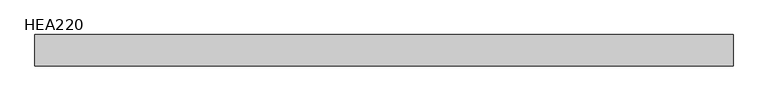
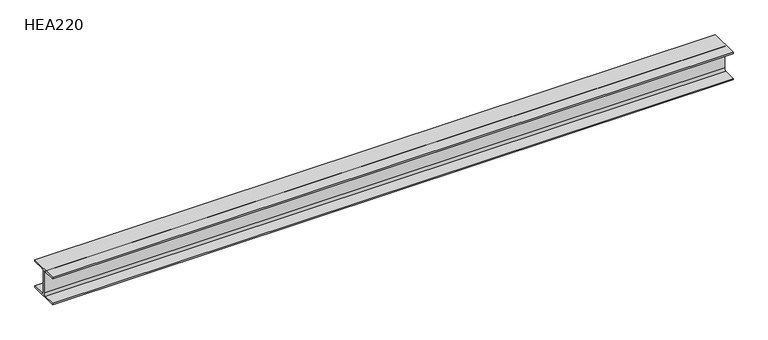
"""IFC4 building model written with IfcOpenShell, lengths in millimetres: beam geometry, HE-A : HEA220."""

from ifc_helpers import new_model, si_unit, point, frame, frame_2d, origin, place, context, project, spatial, polyline, circle_curve, trimmed, segment, composite_curve, outline, extrude, source, transform, mapped, element, save


def hea220_0f68d9ae(model_context):
    return source(origin(), model_context, "Body", "SweptSolid", [
        extrude(outline(composite_curve([segment(polyline([(110.0, -94.0), (110.0, -105.0), (-110.0, -105.0), (-110.0, -94.0), (-21.5, -94.0)]), True, "CONTINUOUS"), segment(trimmed(circle_curve(frame_2d((-21.5, -76.0)), 18.0), [point((-21.5, -94.0))], [point((-3.5, -76.0))], True, "CARTESIAN"), True, "CONTINUOUS"), segment(polyline([(-3.5, -76.0), (-3.5, 76.0)]), True, "CONTINUOUS"), segment(trimmed(circle_curve(frame_2d((-21.5, 76.0)), 18.0), [point((-3.5, 76.0))], [point((-21.5, 94.0))], True, "CARTESIAN"), True, "CONTINUOUS"), segment(polyline([(-21.5, 94.0), (-110.0, 94.0), (-110.0, 105.0), (110.0, 105.0), (110.0, 94.0), (21.5, 94.0)]), True, "CONTINUOUS"), segment(trimmed(circle_curve(frame_2d((21.5, 76.0)), 18.0), [point((21.5, 94.0))], [point((3.5, 76.0))], True, "CARTESIAN"), True, "CONTINUOUS"), segment(polyline([(3.5, 76.0), (3.5, -76.0)]), True, "CONTINUOUS"), segment(trimmed(circle_curve(frame_2d((21.5, -76.0)), 18.0), [point((3.5, -76.0))], [point((21.5, -94.0))], True, "CARTESIAN"), True, "CONTINUOUS"), segment(polyline([(21.5, -94.0), (110.0, -94.0)]), True, "CONTINUOUS")], self_intersect=False)), frame((-2451.9, 0.0, 0.0), z_axis=(1.0, 0.0, 0.0), x_axis=(0.0, 1.0, 0.0)), (0.0, 0.0, 1.0), 4903.8),
    ])


if __name__ == "__main__":
    model = new_model("IFC4")
    model_context = context("Model", 3, world=origin())
    ifc_project = project(units=[si_unit("LENGTHUNIT", "METRE", prefix="MILLI")], contexts=[model_context])
    site = spatial("IfcSite", under=ifc_project)
    building = spatial("IfcBuilding", under=site)
    placement = place(None, origin())
    hea220_shape = hea220_0f68d9ae(model_context)
    element("IfcBeam", 1, ObjectType="HE-A : HEA220", at=placement, inside=building, context=model_context, shape_type="MappedRepresentation", body=[
        mapped(hea220_shape, transform((0.0, 0.0, 0.0), x_axis=(1.0, 0.0, 0.0), y_axis=(0.0, 1.0, 0.0), z_axis=(0.0, 0.0, 1.0))),
    ])
    save(model, "model.ifc")
